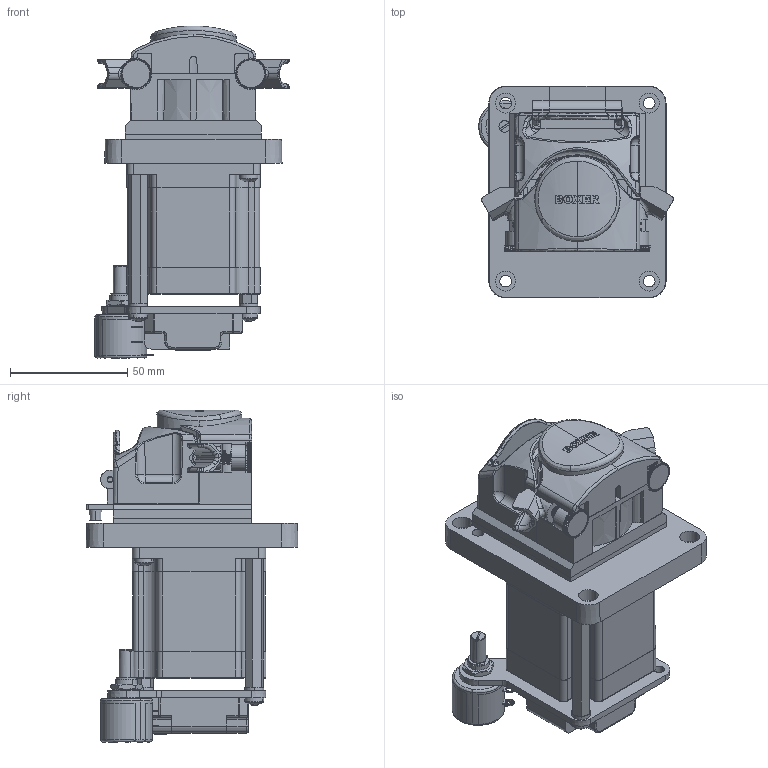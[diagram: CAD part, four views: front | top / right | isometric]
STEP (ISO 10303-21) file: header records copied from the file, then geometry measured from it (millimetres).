
FILE_DESCRIPTION (( 'STEP AP203' ), '1' );
FILE_NAME ('15KS+ 4Ap.STEP', '2016-07-20T06:42:38', ( '' ), ( '' ), 'SwSTEP 2.0', 'SolidWorks 2014', '' );
FILE_SCHEMA (( 'CONFIG_CONTROL_DESIGN' ));
Length unit declared in the file: millimetre
Products named in the file (1): 15KS+ 4Ap
Bounding box: 83.02 x 90.43 x 141.73 mm (x, y, z)
Surface area: 81624.3 mm2 (no closed solid volume)
Topology: 0 solids, 43 shells, 1414 faces, 5128 edges, 3593 vertices
Faces by surface type: plane 516, cylinder 436, bspline 261, cone 118, torus 57, sphere 26
Entity records: 72998 total; most frequent: CARTESIAN_POINT 32971, ORIENTED_EDGE 8422, DIRECTION 7521, EDGE_CURVE 5124, VERTEX_POINT 3593, AXIS2_PLACEMENT_3D 2653, VECTOR 2215, LINE 2215
